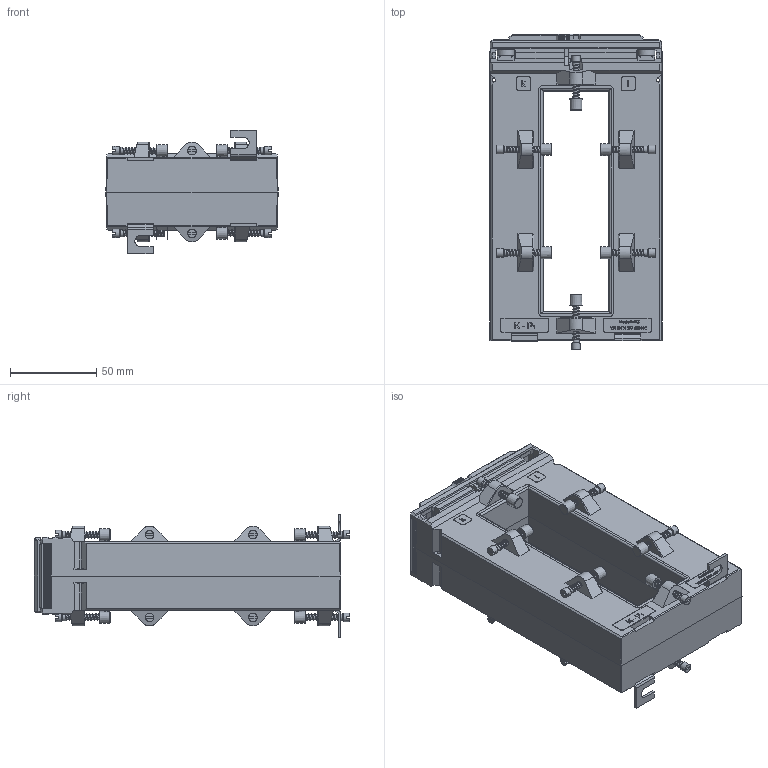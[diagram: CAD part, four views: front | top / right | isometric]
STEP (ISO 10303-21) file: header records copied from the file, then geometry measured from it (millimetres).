
FILE_DESCRIPTION(/* description */ (''),/* implementation_level */ '2;1');
FILE_NAME(/* name */ 'ASK128.4.stp',/* time_stamp */ '2024-03-04T14:48:26+01:00',/* author */ ('JDI'),/* organization */ (''),/* preprocessor_version */ 'ST-DEVELOPER v19.2',/* originating_system */ 'Autodesk Inventor 2023',/* authorisation */ '');
FILE_SCHEMA (('AUTOMOTIVE_DESIGN { 1 0 10303 214 3 1 1 }'));
Products named in the file (1): ASK128.4
Bounding box: 100 x 183 x 72 mm (x, y, z)
Volume: 507113.1 mm3; surface area: 88456.8 mm2
Topology: 1 solids, 1 shells, 2172 faces, 6023 edges, 3914 vertices
Faces by surface type: plane 1324, cylinder 519, bspline 243, cone 78, sphere 4, torus 4
Full cylindrical faces by diameter (mm): 1.5 x1, 2 x2, 3 x156, 3.4 x50, 3.8 x24, 4 x51, 4.1 x12, 5 x16, 5.3 x4, 10 x4
Entity records: 114978 total; most frequent: CARTESIAN_POINT 60385, ORIENTED_EDGE 12046, DIRECTION 9193, EDGE_CURVE 6023, LINE 4033, VECTOR 4033, VERTEX_POINT 3914, AXIS2_PLACEMENT_3D 2580
